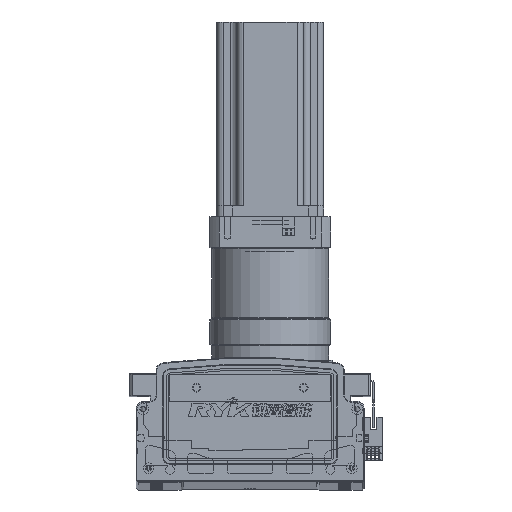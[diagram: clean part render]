
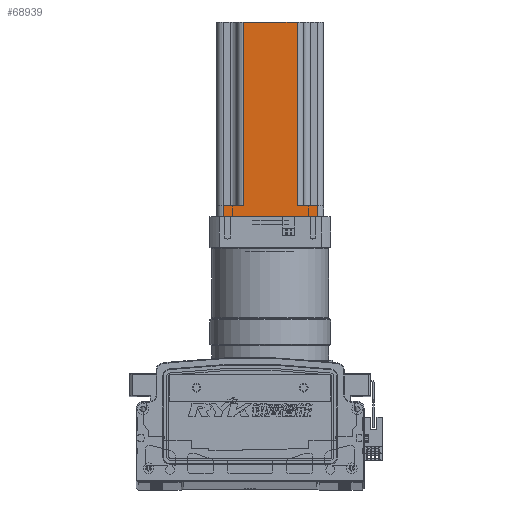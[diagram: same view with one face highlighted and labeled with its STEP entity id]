
A CAD part, top view. The second image highlights one B-rep face of the part: STEP entity #68939.
In plain terms, the highlighted planar face has unit normal (0, 0, 1) as drawn and (0, -1, 0) by its records, which use the part's own axes.
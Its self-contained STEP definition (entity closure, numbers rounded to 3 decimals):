
#1687 = LINE ( 'NONE', #51302, #1703 ) ;
#1703 = VECTOR ( 'NONE', #51311, 1000. ) ;
#1773 = VECTOR ( 'NONE', #52003, 1000. ) ;
#1776 = VECTOR ( 'NONE', #51646, 1000. ) ;
#1792 = VECTOR ( 'NONE', #51767, 1000. ) ;
#1796 = VECTOR ( 'NONE', #51898, 1000. ) ;
#1797 = LINE ( 'NONE', #51780, #1801 ) ;
#1801 = VECTOR ( 'NONE', #51790, 1000. ) ;
#1810 = LINE ( 'NONE', #51917, #1773 ) ;
#1822 = LINE ( 'NONE', #51759, #1792 ) ;
#1823 = LINE ( 'NONE', #51709, #1833 ) ;
#1824 = LINE ( 'NONE', #51618, #1776 ) ;
#1833 = VECTOR ( 'NONE', #51661, 1000. ) ;
#1835 = LINE ( 'NONE', #51745, #1796 ) ;
#1839 = LINE ( 'NONE', #52195, #1864 ) ;
#1864 = VECTOR ( 'NONE', #52143, 1000. ) ;
#12384 = AXIS2_PLACEMENT_3D ( 'NONE', #102615, #102618, #102620 ) ;
#25241 = ORIENTED_EDGE ( 'NONE', *, *, #36045, .T. ) ;
#25267 = ORIENTED_EDGE ( 'NONE', *, *, #36068, .F. ) ;
#25302 = ORIENTED_EDGE ( 'NONE', *, *, #36022, .T. ) ;
#25359 = ORIENTED_EDGE ( 'NONE', *, *, #36048, .F. ) ;
#25395 = ORIENTED_EDGE ( 'NONE', *, *, #36039, .T. ) ;
#25400 = ORIENTED_EDGE ( 'NONE', *, *, #35965, .T. ) ;
#25408 = ORIENTED_EDGE ( 'NONE', *, *, #36046, .F. ) ;
#25451 = ORIENTED_EDGE ( 'NONE', *, *, #36023, .T. ) ;
#32009 = VERTEX_POINT ( 'NONE', #50560 ) ;
#32088 = VERTEX_POINT ( 'NONE', #50584 ) ;
#32104 = VERTEX_POINT ( 'NONE', #50758 ) ;
#32132 = VERTEX_POINT ( 'NONE', #50721 ) ;
#32137 = VERTEX_POINT ( 'NONE', #50688 ) ;
#32144 = VERTEX_POINT ( 'NONE', #50744 ) ;
#32177 = VERTEX_POINT ( 'NONE', #50735 ) ;
#32182 = VERTEX_POINT ( 'NONE', #50677 ) ;
#35965 = EDGE_CURVE ( 'NONE', #32104, #32088, #1687, .T. ) ;
#36022 = EDGE_CURVE ( 'NONE', #32132, #32104, #1823, .T. ) ;
#36023 = EDGE_CURVE ( 'NONE', #32144, #32009, #1824, .T. ) ;
#36039 = EDGE_CURVE ( 'NONE', #32182, #32137, #1822, .T. ) ;
#36045 = EDGE_CURVE ( 'NONE', #32088, #32177, #1835, .T. ) ;
#36046 = EDGE_CURVE ( 'NONE', #32182, #32009, #1810, .T. ) ;
#36048 = EDGE_CURVE ( 'NONE', #32132, #32137, #1797, .T. ) ;
#36068 = EDGE_CURVE ( 'NONE', #32144, #32177, #1839, .T. ) ;
#50560 = CARTESIAN_POINT ( 'NONE',  ( -27.587, -40.37, 145. ) ) ;
#50584 = CARTESIAN_POINT ( 'NONE',  ( -12.587, -40.37, 0. ) ) ;
#50677 = CARTESIAN_POINT ( 'NONE',  ( -67.587, -40.37, 145. ) ) ;
#50688 = CARTESIAN_POINT ( 'NONE',  ( -67.587, -40.37, 8. ) ) ;
#50721 = CARTESIAN_POINT ( 'NONE',  ( -82.587, -40.37, 8. ) ) ;
#50735 = CARTESIAN_POINT ( 'NONE',  ( -12.587, -40.37, 8. ) ) ;
#50744 = CARTESIAN_POINT ( 'NONE',  ( -27.587, -40.37, 8. ) ) ;
#50758 = CARTESIAN_POINT ( 'NONE',  ( -82.587, -40.37, 0. ) ) ;
#51302 = CARTESIAN_POINT ( 'NONE',  ( -87.587, -40.37, 0. ) ) ;
#51311 = DIRECTION ( 'NONE',  ( 1., 0., 0. ) ) ;
#51618 = CARTESIAN_POINT ( 'NONE',  ( -27.587, -40.37, 145. ) ) ;
#51646 = DIRECTION ( 'NONE',  ( 0., 0., 1. ) ) ;
#51661 = DIRECTION ( 'NONE',  ( 0., 0., -1. ) ) ;
#51709 = CARTESIAN_POINT ( 'NONE',  ( -82.587, -40.37, 145. ) ) ;
#51745 = CARTESIAN_POINT ( 'NONE',  ( -12.587, -40.37, 145. ) ) ;
#51759 = CARTESIAN_POINT ( 'NONE',  ( -67.587, -40.37, 145. ) ) ;
#51767 = DIRECTION ( 'NONE',  ( 0., 0., -1. ) ) ;
#51780 = CARTESIAN_POINT ( 'NONE',  ( -87.587, -40.37, 8. ) ) ;
#51790 = DIRECTION ( 'NONE',  ( 1., 0., 0. ) ) ;
#51898 = DIRECTION ( 'NONE',  ( 0., 0., 1. ) ) ;
#51917 = CARTESIAN_POINT ( 'NONE',  ( -87.587, -40.37, 145. ) ) ;
#52003 = DIRECTION ( 'NONE',  ( 1., 0., 0. ) ) ;
#52143 = DIRECTION ( 'NONE',  ( 1., 0., 0. ) ) ;
#52195 = CARTESIAN_POINT ( 'NONE',  ( -7.587, -40.37, 8. ) ) ;
#68939 = ADVANCED_FACE ( 'NONE', ( #107563 ), #102614, .F. ) ;
#81983 = EDGE_LOOP ( 'NONE', ( #25359, #25302, #25400, #25241, #25267, #25451, #25408, #25395 ) ) ;
#102614 = PLANE ( 'NONE',  #12384 ) ;
#102615 = CARTESIAN_POINT ( 'NONE',  ( -87.587, -40.37, 145. ) ) ;
#102618 = DIRECTION ( 'NONE',  ( 0., 1., 0. ) ) ;
#102620 = DIRECTION ( 'NONE',  ( -1., 0., 0. ) ) ;
#107563 = FACE_OUTER_BOUND ( 'NONE', #81983, .T. ) ;
